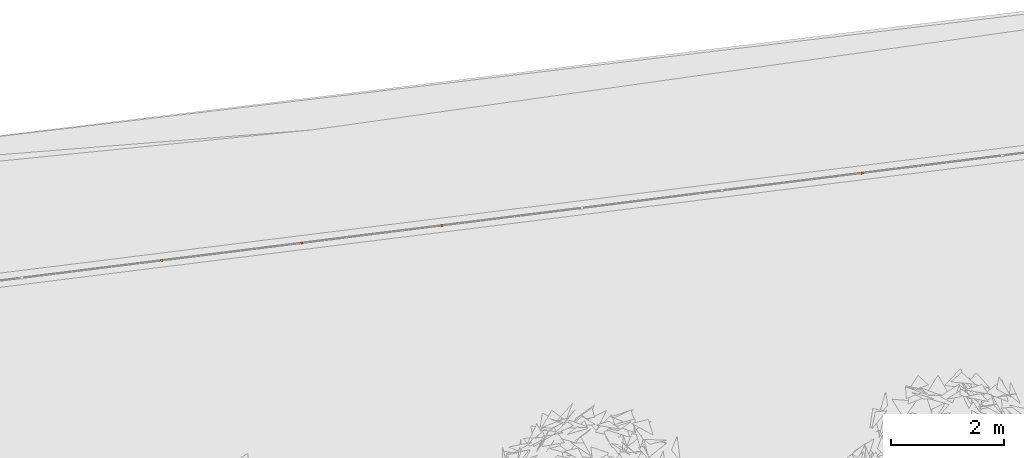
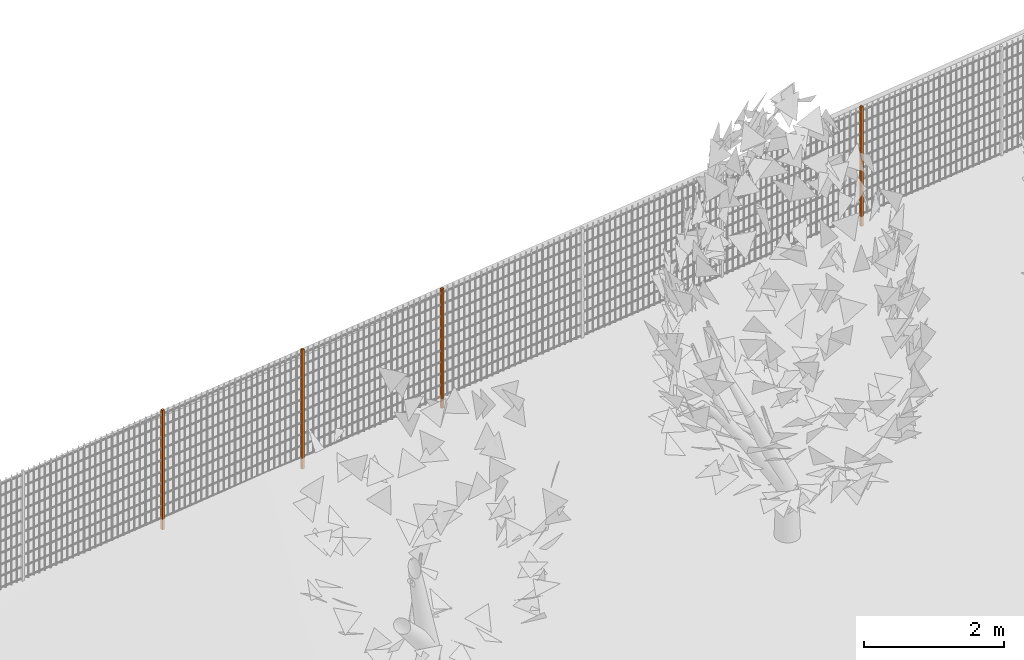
# One storey, part 23 of 1809: 4 proxies, 1 element without a shape of its own.
"""IFC2X3 building model written with IfcOpenShell, lengths in millimetres."""

import ifcopenshell
import ifcopenshell.guid

model = None  # the IFC model being written
_history = None  # IfcOwnerHistory: only IFC2X3 demands one
_inside = {}  # id of a spatial element -> (the spatial element, [elements in it])
_under = {}  # id of a project, library or spatial element -> (it, [spatial elements below it])
_declared = {}  # id of a project -> (the project, [libraries it declares])
_typed = {}  # id of a type object -> (the type object, [elements of that type])
_made_of = {}  # id of a material, layer set ... -> (it, [elements and type objects made of it])


def new_model(schema):
    """Start an empty IFC model of exactly this schema.

    Asked for "IFC4X3", IfcOpenShell would pick the latest addendum, in which some entities
    have other attributes; the version numbers below select the first issue.
    IFC2X3 requires an IfcOwnerHistory on every rooted entity: one is made here for all.
    """
    global model, _history
    if schema == "IFC4X3":
        model = ifcopenshell.file(schema_version=(4, 3, 0, 0))
    else:
        model = ifcopenshell.file(schema=schema)
    _inside.clear()
    _under.clear()
    _declared.clear()
    _typed.clear()
    _made_of.clear()
    _history = None
    if model.schema == "IFC2X3":
        org = make("IfcOrganization", Name="unknown")
        user = make(
            "IfcPersonAndOrganization",
            ThePerson=make("IfcPerson", FamilyName="unknown"),
            TheOrganization=org,
        )
        app = make(
            "IfcApplication",
            ApplicationDeveloper=org,
            Version="unknown",
            ApplicationFullName="unknown",
            ApplicationIdentifier="unknown",
        )
        _history = make(
            "IfcOwnerHistory",
            OwningUser=user,
            OwningApplication=app,
            ChangeAction="ADDED",
            CreationDate=0,
        )
    return model


def make(cls, **values):
    """One entity of the class cls with the attributes given. An attribute that is None is left unset."""
    return model.create_entity(
        cls, **{name: value for name, value in values.items() if value is not None}
    )


def entity(cls, *values):
    """Any entity or typed value of the class cls, its attributes in the order of the schema. None: left unset."""
    e = model.create_entity(cls)
    for i, value in enumerate(values):
        if value is not None:
            e[i] = value
    return e


def rooted(cls, **values):
    """An entity with a GlobalId (a new one), such as an element, a storey or a relation."""
    return make(cls, GlobalId=ifcopenshell.guid.new(), OwnerHistory=_history, **values)


def si_unit(unit_type, name, prefix=None):
    """IfcSIUnit, for example si_unit("LENGTHUNIT", "METRE", prefix="MILLI")."""
    return make("IfcSIUnit", UnitType=unit_type, Prefix=prefix, Name=name)


def converted_unit(unit_type, name, factor, base, dimensions=None, offset=None):
    """IfcConversionBasedUnit, such as the inch: factor (a typed value) times the base unit."""
    return make(
        "IfcConversionBasedUnit"
        if offset is None
        else "IfcConversionBasedUnitWithOffset",
        ConversionOffset=offset,
        Dimensions=None
        if dimensions is None
        else entity("IfcDimensionalExponents", *dimensions),
        UnitType=unit_type,
        Name=name,
        ConversionFactor=make(
            "IfcMeasureWithUnit", ValueComponent=factor, UnitComponent=base
        ),
    )


def derived_unit(unit_type, elements):
    """IfcDerivedUnit: a product of units, each with its exponent."""
    return make(
        "IfcDerivedUnit",
        Elements=[
            make("IfcDerivedUnitElement", Unit=unit, Exponent=power)
            for unit, power in elements
        ],
        UnitType=unit_type,
    )


def money_unit(currency):
    """IfcMonetaryUnit."""
    return make("IfcMonetaryUnit", Currency=currency)


def assignment(units):
    """IfcUnitAssignment: the units of a project."""
    return None if units is None else make("IfcUnitAssignment", Units=units)


def point(xyz):
    """IfcCartesianPoint."""
    return None if xyz is None else make("IfcCartesianPoint", Coordinates=xyz)


def direction(xyz):
    """IfcDirection."""
    return None if xyz is None else make("IfcDirection", DirectionRatios=xyz)


def frame(location, z_axis=None, x_axis=None):
    """IfcAxis2Placement3D, a coordinate frame: its origin and axes. An axis left out is left unset."""
    return make(
        "IfcAxis2Placement3D",
        Location=point(location),
        Axis=direction(z_axis),
        RefDirection=direction(x_axis),
    )


def origin_with_axes():
    """The frame at (0, 0, 0) with the z axis (0, 0, 1) and the x axis (1, 0, 0) written out."""
    return frame((0.0, 0.0, 0.0), z_axis=(0.0, 0.0, 1.0), x_axis=(1.0, 0.0, 0.0))


def place(relative_to, where):
    """IfcLocalPlacement: puts the frame where relative to a parent placement (None: the world)."""
    return make(
        "IfcLocalPlacement", PlacementRelTo=relative_to, RelativePlacement=where
    )


def context(
    kind, dimensions, precision=None, world=None, true_north=None, identifier=None
):
    """IfcGeometricRepresentationContext, for example the 3D "Model" context."""
    return make(
        "IfcGeometricRepresentationContext",
        ContextIdentifier=identifier,
        ContextType=kind,
        CoordinateSpaceDimension=dimensions,
        Precision=precision,
        WorldCoordinateSystem=world,
        TrueNorth=true_north,
    )


def subcontext(parent, identifier, kind, view, scale=None):
    """IfcGeometricRepresentationSubContext, for example "Body" below "Model"."""
    return make(
        "IfcGeometricRepresentationSubContext",
        ContextIdentifier=identifier,
        ContextType=kind,
        ParentContext=parent,
        TargetScale=scale,
        TargetView=view,
    )


def project(units=None, contexts=None):
    """IfcProject with its units and contexts."""
    return rooted(
        "IfcProject",
        Name="project",
        RepresentationContexts=contexts,
        UnitsInContext=assignment(units),
    )


def spatial(cls, under=None, at=None, **own):
    """A site, building, storey or space (cls), placed at a placement, below another one or the project."""
    s = rooted(cls, ObjectPlacement=at, **own)
    if under is not None:
        _under.setdefault(under.id(), (under, []))[1].append(s)
    return s


def faces_of(points, faces, orient=None, outer=None):
    """IfcFace entities. A face is a list of loops; a loop is a list of indices into points, from 0.

    orient and outer hold one flag for each loop. By default every Orientation is true, the
    first loop of a face is its IfcFaceOuterBound and the others are IfcFaceBound.
    """
    made = []
    for i, loops in enumerate(faces):
        bounds = []
        for j, loop in enumerate(loops):
            is_outer = j == 0 if outer is None else outer[i][j]
            bounds.append(
                make(
                    "IfcFaceOuterBound" if is_outer else "IfcFaceBound",
                    Bound=make("IfcPolyLoop", Polygon=[points[k] for k in loop]),
                    Orientation=True if orient is None else orient[i][j],
                )
            )
        made.append(make("IfcFace", Bounds=bounds))
    return made


def faceted_brep(points, faces, orient=None, outer=None, voids=None):
    """IfcFacetedBrep: a solid bounded by flat faces; with voids (closed shells), ...WithVoids."""
    shared = [point(p) for p in points]
    hull = make("IfcClosedShell", CfsFaces=faces_of(shared, faces, orient, outer))
    if voids is None:
        return make("IfcFacetedBrep", Outer=hull)
    return make(
        "IfcFacetedBrepWithVoids",
        Outer=hull,
        Voids=[
            make(cls, CfsFaces=faces_of(shared, fs, o, b)) for cls, fs, o, b in voids
        ],
    )


def shape(context_of_items, identifier, shape_type, items):
    """IfcShapeRepresentation: the items that make up one representation, for example the "Body"."""
    return make(
        "IfcShapeRepresentation",
        ContextOfItems=context_of_items,
        RepresentationIdentifier=identifier,
        RepresentationType=shape_type,
        Items=items,
    )


def source(mapping_origin, context_of_items, identifier, shape_type, items):
    """IfcRepresentationMap: a shape defined once, which mapped items show again and again."""
    return make(
        "IfcRepresentationMap",
        MappingOrigin=mapping_origin,
        MappedRepresentation=shape(context_of_items, identifier, shape_type, items),
    )


def transform(
    local_origin,
    x_axis=None,
    y_axis=None,
    z_axis=None,
    scale=None,
    scale2=None,
    scale3=None,
    uniform=True,
):
    """IfcCartesianTransformationOperator3D, or its non-uniform kind. x_axis, y_axis, z_axis: its Axis1, 2, 3."""
    if uniform:
        return make(
            "IfcCartesianTransformationOperator3D",
            Axis1=direction(x_axis),
            Axis2=direction(y_axis),
            LocalOrigin=point(local_origin),
            Scale=scale,
            Axis3=direction(z_axis),
        )
    return make(
        "IfcCartesianTransformationOperator3DnonUniform",
        Axis1=direction(x_axis),
        Axis2=direction(y_axis),
        LocalOrigin=point(local_origin),
        Scale=scale,
        Axis3=direction(z_axis),
        Scale2=scale2,
        Scale3=scale3,
    )


def mapped(mapping_source, mapping_target):
    """IfcMappedItem: shows the shape of a source again, moved by a transform."""
    return make(
        "IfcMappedItem", MappingSource=mapping_source, MappingTarget=mapping_target
    )


def material(Name=None, Category=None):
    """IfcMaterial."""
    return make("IfcMaterial", Name=Name, Category=Category)


def made_of(thing, what):
    """Note that an element or type object is made of a material, layer set ...; save() writes the relation."""
    if what is not None:
        _made_of.setdefault(what.id(), (what, []))[1].append(thing)
    return thing


def type_object(cls, material=None, **own):
    """A type object (cls), such as IfcWallType, which elements share."""
    return made_of(rooted(cls, **own), material)


def element(
    cls,
    number,
    at=None,
    inside=None,
    cuts=None,
    type_object=None,
    material=None,
    context=None,
    identifier="Body",
    shape_type=None,
    held_by="IfcProductDefinitionShape",
    body=None,
    shapes=None,
    **own,
):
    """One element of the class cls, such as IfcWall. Its Tag is "e" and its number.

    at: its placement. inside: the storey or other place that contains it. cuts: it is an
    opening in that element (IfcRelVoidsElement). A single representation is given by context,
    identifier, shape_type and body (its items); several are given by shapes. held_by: the class
    of the entity that holds the representations. save() writes the other relations.
    """
    e = rooted(cls, Tag="e%d" % number, ObjectPlacement=at, **own)
    if body is not None:
        shapes = [shape(context, identifier, shape_type, body)]
    if shapes is not None:
        e.Representation = make(held_by, Representations=shapes)
    if inside is not None:
        _inside.setdefault(inside.id(), (inside, []))[1].append(e)
    if cuts is not None:
        rooted(
            "IfcRelVoidsElement", RelatingBuildingElement=cuts, RelatedOpeningElement=e
        )
    if type_object is not None:
        _typed.setdefault(type_object.id(), (type_object, []))[1].append(e)
    return made_of(e, material)


def aggregate(whole, parts):
    """IfcRelAggregates: a whole, such as a stair, and the parts it consists of."""
    return rooted("IfcRelAggregates", RelatingObject=whole, RelatedObjects=parts)


def save(model, path):
    """Write the relations noted so far, then the file.

    IfcRelAggregates (storeys below a building ...), IfcRelContainedInSpatialStructure (elements
    in a storey), IfcRelDefinesByType, IfcRelAssociatesMaterial and IfcRelDeclares: one each for
    every whole, place, type object, material and project.
    """
    for whole, parts in _under.values():
        aggregate(whole, parts)
    for where, things in _inside.values():
        rooted(
            "IfcRelContainedInSpatialStructure",
            RelatedElements=things,
            RelatingStructure=where,
        )
    for kind, things in _typed.values():
        rooted("IfcRelDefinesByType", RelatedObjects=things, RelatingType=kind)
    for what, things in _made_of.values():
        rooted("IfcRelAssociatesMaterial", RelatedObjects=things, RelatingMaterial=what)
    for by, libraries in _declared.values():
        rooted("IfcRelDeclares", RelatingContext=by, RelatedDefinitions=libraries)
    model.write(path)


model = new_model("IFC2X3")

# Units and contexts
model_context = context("Model", 3, precision=0.01, world=origin_with_axes(), true_north=direction((0.0, 1.0)))
body_context = subcontext(model_context, "Body", "Model", "MODEL_VIEW")
ifc_project = project(units=[si_unit("LENGTHUNIT", "METRE", prefix="MILLI"), si_unit("AREAUNIT", "SQUARE_METRE"), si_unit("VOLUMEUNIT", "CUBIC_METRE"), converted_unit("PLANEANGLEUNIT", "DEGREE", entity("IfcPlaneAngleMeasure", 0.0174532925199), si_unit("PLANEANGLEUNIT", "RADIAN"), dimensions=[0, 0, 0, 0, 0, 0, 0]), si_unit("SOLIDANGLEUNIT", "STERADIAN"), money_unit("EUR"), converted_unit("TIMEUNIT", "Year", entity("IfcTimeMeasure", 31556926.0), si_unit("TIMEUNIT", "SECOND"), dimensions=[0, 0, 1, 0, 0, 0, 0]), si_unit("MASSUNIT", "GRAM", prefix="KILO"), si_unit("THERMODYNAMICTEMPERATUREUNIT", "DEGREE_CELSIUS"), si_unit("LUMINOUSINTENSITYUNIT", "LUMEN"), si_unit("ENERGYUNIT", "JOULE", prefix="MEGA"), derived_unit("THERMALCONDUCTANCEUNIT", [(si_unit("POWERUNIT", "WATT"), 1), (si_unit("LENGTHUNIT", "METRE"), -1), (si_unit("THERMODYNAMICTEMPERATUREUNIT", "KELVIN"), -1)]), derived_unit("SPECIFICHEATCAPACITYUNIT", [(si_unit("ENERGYUNIT", "JOULE"), 1), (si_unit("MASSUNIT", "GRAM", prefix="KILO"), -1), (si_unit("THERMODYNAMICTEMPERATUREUNIT", "KELVIN"), -1)]), derived_unit("MASSDENSITYUNIT", [(si_unit("MASSUNIT", "GRAM", prefix="KILO"), 1), (si_unit("VOLUMEUNIT", "CUBIC_METRE"), -1)])], contexts=[model_context])

# Site, building, storey
site_placement = place(None, origin_with_axes())
site = spatial("IfcSite", under=ifc_project, at=site_placement, Name="Politse- ja Piirivalveameti ning Päästeameti ühishoone", CompositionType="ELEMENT")
building_placement = place(site_placement, origin_with_axes())
building = spatial("IfcBuilding", under=site, at=building_placement, Name="Politse- ja Piirivalveameti ning Päästeameti ühishoone", CompositionType="ELEMENT")
storey_placement = place(building_placement, origin_with_axes())
storey = spatial("IfcBuildingStorey", under=building, at=storey_placement, Name="Esimene korrus", CompositionType="ELEMENT", Elevation=0.0)

# Proxies
building_element_proxy_type_1 = type_object("IfcBuildingElementProxyType", Name="Railing Type", PredefinedType="NOTDEFINED")
proxy_1_placement = place(storey_placement, frame((44315.9245146, 76650.7857067, 296.762367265), z_axis=(0.0, 0.0, 1.0), x_axis=(0.122151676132, 0.992511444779, 0.0)))
proxy_1 = element("IfcBuildingElementProxy", 1, at=proxy_1_placement, inside=storey, type_object=building_element_proxy_type_1, Name="PIIRDEAED")
ifc_material = material(Name="ET-03_Raud")
building_element_proxy_type_2 = type_object("IfcBuildingElementProxyType", Name="IfcBuildingElementProxy", PredefinedType="NOTDEFINED")
shared_shape = source(origin_with_axes(), body_context, "Body", "Brep", [
    faceted_brep([(20.0, 20.0, 0.0), (-20.0, 20.0, 0.0), (-20.0, 20.0, 2080.0), (20.0, 20.0, 2080.0), (20.0, -20.0, 0.0), (-20.0, -20.0, 0.0), (-20.0, -20.0, 2080.0), (20.0, -20.0, 2080.0)], [[[0, 1, 2, 3]], [[0, 4, 5, 1]], [[1, 5, 6, 2]], [[3, 2, 6, 7]], [[4, 0, 3, 7]], [[5, 4, 7, 6]]]),
])
proxy_2_placement = place(proxy_1_placement, frame((-13901.9629948, 54428.9229116, 0.0), z_axis=(0.0, 0.0, 1.0), x_axis=(0.122151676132, -0.992511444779, 0.0)))
proxy_2 = element("IfcBuildingElementProxy", 2, at=proxy_2_placement, type_object=building_element_proxy_type_2, material=ifc_material, Name="SISEPOST - 001", context=body_context, shape_type="MappedRepresentation", body=[
    mapped(shared_shape, transform((0.0, 0.0, 0.0), x_axis=(-0.123895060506, 0.99229532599, 0.0), y_axis=(-0.99229532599, -0.123895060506, 0.0), z_axis=(0.0, 0.0, 1.0))),
])
proxy_3_placement = place(proxy_1_placement, frame((-15733.2965157, 61701.9014992, 0.0), z_axis=(0.0, 0.0, 1.0), x_axis=(0.122151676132, -0.992511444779, 0.0)))
proxy_3 = element("IfcBuildingElementProxy", 3, at=proxy_3_placement, type_object=building_element_proxy_type_2, material=ifc_material, Name="SISEPOST - 001", context=body_context, shape_type="MappedRepresentation", body=[
    mapped(shared_shape, transform((0.0, 0.0, 0.0), x_axis=(-0.123895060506, 0.99229532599, 0.0), y_axis=(-0.99229532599, -0.123895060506, 0.0), z_axis=(0.0, 0.0, 1.0))),
])
proxy_4_placement = place(proxy_1_placement, frame((-16343.7410227, 64126.227695, 0.0), z_axis=(0.0, 0.0, 1.0), x_axis=(0.122151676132, -0.992511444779, 0.0)))
proxy_4 = element("IfcBuildingElementProxy", 4, at=proxy_4_placement, type_object=building_element_proxy_type_2, material=ifc_material, Name="SISEPOST - 001", context=body_context, shape_type="MappedRepresentation", body=[
    mapped(shared_shape, transform((0.0, 0.0, 0.0), x_axis=(-0.123895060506, 0.99229532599, 0.0), y_axis=(-0.99229532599, -0.123895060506, 0.0), z_axis=(0.0, 0.0, 1.0))),
])
proxy_5_placement = place(proxy_1_placement, frame((-16954.1855297, 66550.5538909, 0.0), z_axis=(0.0, 0.0, 1.0), x_axis=(0.122151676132, -0.992511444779, 0.0)))
proxy_5 = element("IfcBuildingElementProxy", 5, at=proxy_5_placement, type_object=building_element_proxy_type_2, material=ifc_material, Name="SISEPOST - 001", context=body_context, shape_type="MappedRepresentation", body=[
    mapped(shared_shape, transform((0.0, 0.0, 0.0), x_axis=(-0.123895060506, 0.99229532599, 0.0), y_axis=(-0.99229532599, -0.123895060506, 0.0), z_axis=(0.0, 0.0, 1.0))),
])
aggregate(proxy_1, [proxy_2, proxy_3, proxy_4, proxy_5])

save(model, "model.ifc")
